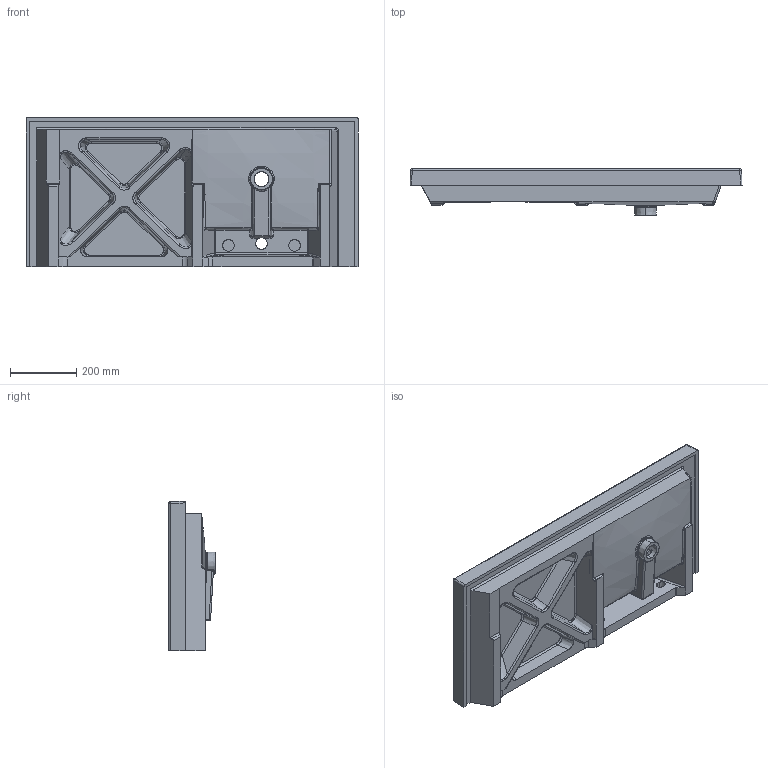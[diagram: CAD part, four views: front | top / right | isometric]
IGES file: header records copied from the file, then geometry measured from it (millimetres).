
Start section: SolidWorks IGES file using analytic representation for surfaces
Global section: file name: K:\lavabi tecla 3D IGS\n. CONDAL (2)\CONDAL 45X100CO02011DOPPIO.IGS; native system: SolidWorks 2013; preprocessor: SolidWorks 2013; author: UTENTE 1; date: 140521.172044; units: millimetre
Bounding box: 1003.49 x 140 x 451.75 mm (x, y, z)
Surface area: 1505415.9 mm2 (no closed solid volume)
Topology: 0 solids, 0 shells, 270 faces, 3443 edges, 3437 vertices
Faces by surface type: bspline 153, revolution 117
